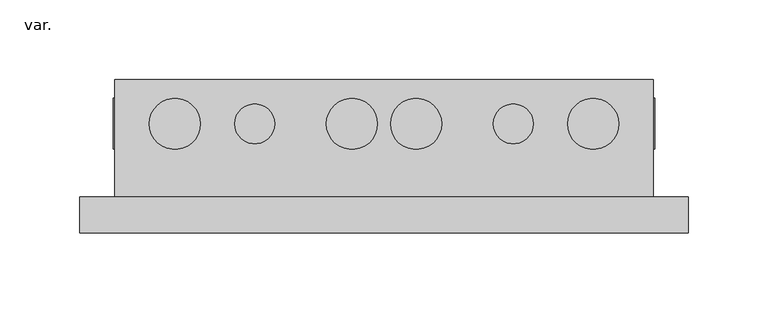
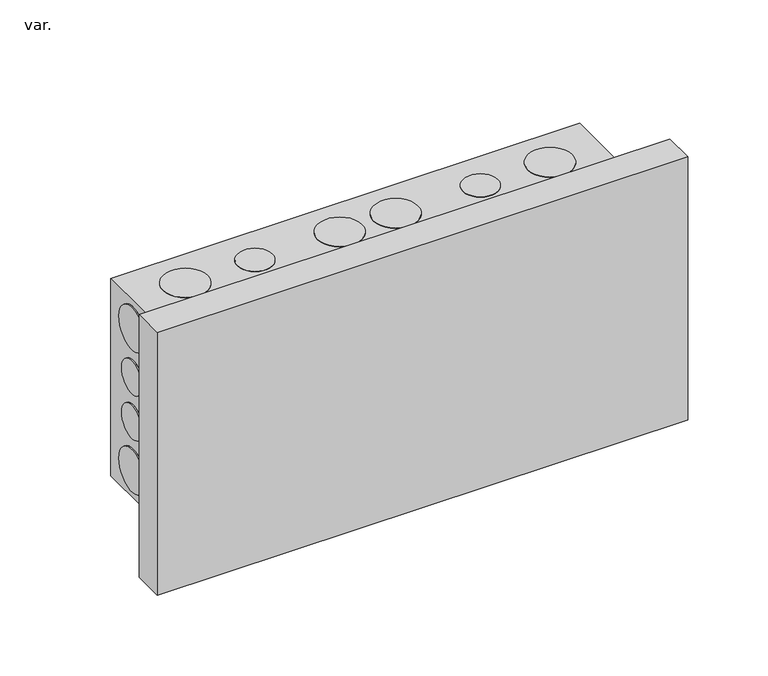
"""IFC4 building model written with IfcOpenShell, lengths in millimetres: pipe fitting geometry, AmancoWavin_ConexõesdoConduite_LinhaEletricaCorrugadoCuadroDistribucao12D : var.."""

from ifc_helpers import new_model, si_unit, frame, origin, place, context, project, spatial, polyline, circle_curve, source, transform, mapped, element, save
from ifc_brep_helpers import plane_surface, cylinder_surface, revolved_surface, advanced_brep


def var_2f03b29f(model_context):
    return source(origin(), model_context, "Body", "AdvancedBrep", [
        advanced_brep(
        [(190.5, 22.5, 100.0), (190.5, 22.5, -100.0), (-190.5, 22.5, -100.0), (-190.5, 22.5, 100.0), (168.5, 22.5, -75.0), (168.5, 22.5, 75.0), (-168.5, 22.5, 75.0), (-168.5, 22.5, -75.0), (190.5, 0.0, 100.0), (190.5, 0.0, -100.0), (-190.5, 0.0, -100.0), (-190.5, 0.0, 100.0), (168.5, 96.0, 75.0), (168.5, 96.0, -75.0), (-168.5, 96.0, -75.0), (-168.5, 96.0, 75.0), (-132.5, 96.0, 53.0), (-157.5, 96.0, 53.0), (-92.434244, 96.0, 53.0), (-124.434244, 96.0, 53.0), (132.5, 96.0, 53.0), (157.5, 96.0, 53.0), (92.434244, 96.0, 53.0), (124.434244, 96.0, 53.0), (-132.5, 96.0, -53.0), (-157.5, 96.0, -53.0), (-92.434244, 96.0, -53.0), (-124.434244, 96.0, -53.0), (132.5, 96.0, -53.0), (157.5, 96.0, -53.0), (92.434244, 96.0, -53.0), (124.434244, 96.0, -53.0), (168.5, 56.0, 17.0), (168.5, 81.0, 17.0), (168.5, 52.5, 54.0), (168.5, 84.5, 54.0), (168.5, 56.0, -17.0), (168.5, 81.0, -17.0), (168.5, 52.5, -54.0), (168.5, 84.5, -54.0), (-147.0, 68.3, -75.0), (-115.0, 68.3, -75.0), (-93.5, 68.3, -75.0), (-68.5, 68.3, -75.0), (-36.1, 68.3, -75.0), (-4.1, 68.3, -75.0), (147.0, 68.3, -75.0), (115.0, 68.3, -75.0), (93.5, 68.3, -75.0), (68.5, 68.3, -75.0), (36.1, 68.3, -75.0), (4.1, 68.3, -75.0), (-168.5, 81.0, 17.0), (-168.5, 56.0, 17.0), (-168.5, 84.5, 54.0), (-168.5, 52.5, 54.0), (-168.5, 81.0, -17.0), (-168.5, 56.0, -17.0), (-168.5, 84.5, -54.0), (-168.5, 52.5, -54.0), (-115.0, 68.3, 75.0), (-147.0, 68.3, 75.0), (-68.5, 68.3, 75.0), (-93.5, 68.3, 75.0), (-4.1, 68.3, 75.0), (-36.1, 68.3, 75.0), (115.0, 68.3, 75.0), (147.0, 68.3, 75.0), (68.5, 68.3, 75.0), (93.5, 68.3, 75.0), (4.1, 68.3, 75.0), (36.1, 68.3, 75.0), (-157.5, 95.0, 53.0), (-132.5, 95.0, 53.0), (-124.434244, 95.0, 53.0), (-92.434244, 95.0, 53.0), (157.5, 95.0, 53.0), (132.5, 95.0, 53.0), (124.434244, 95.0, 53.0), (92.434244, 95.0, 53.0), (-157.5, 95.0, -53.0), (-132.5, 95.0, -53.0), (-124.434244, 95.0, -53.0), (-92.434244, 95.0, -53.0), (157.5, 95.0, -53.0), (132.5, 95.0, -53.0), (124.434244, 95.0, -53.0), (92.434244, 95.0, -53.0), (-169.5, 56.0, 17.0), (-169.5, 81.0, 17.0), (-169.5, 52.5, 54.0), (-169.5, 84.5, 54.0), (-169.5, 56.0, -17.0), (-169.5, 81.0, -17.0), (-169.5, 52.5, -54.0), (-169.5, 84.5, -54.0), (169.5, 56.0, 17.0), (169.5, 81.0, 17.0), (169.5, 52.5, 54.0), (169.5, 84.5, 54.0), (169.5, 56.0, -17.0), (169.5, 81.0, -17.0), (169.5, 52.5, -54.0), (169.5, 84.5, -54.0), (-147.0, 68.3, 75.3532589), (-115.0, 68.3, 75.3532589), (-93.5, 68.3, 75.3532589), (-68.5, 68.3, 75.3532589), (-36.1, 68.3, 75.3532589), (-4.1, 68.3, 75.3532589), (147.0, 68.3, 75.3532589), (115.0, 68.3, 75.3532589), (93.5, 68.3, 75.3532589), (68.5, 68.3, 75.3532589), (36.1, 68.3, 75.3532589), (4.1, 68.3, 75.3532589), (-147.0, 68.3, -75.2845122), (-115.0, 68.3, -75.2845122), (-93.5, 68.3, -75.2845122), (-68.5, 68.3, -75.2845122), (-36.1, 68.3, -75.2845122), (-4.1, 68.3, -75.2845122), (147.0, 68.3, -75.2845122), (115.0, 68.3, -75.2845122), (93.5, 68.3, -75.2845122), (68.5, 68.3, -75.2845122), (36.1, 68.3, -75.2845122), (4.1, 68.3, -75.2845122)],
        [
            (0, 1),
            (1, 2),
            (2, 3),
            (3, 0),
            (4, 5),
            (5, 6),
            (6, 7),
            (7, 4),
            (0, 8),
            (8, 9),
            (9, 1),
            (9, 10),
            (10, 2),
            (10, 11),
            (11, 3),
            (11, 8),
            (12, 13),
            (13, 14),
            (14, 15),
            (15, 12),
            (16, 17, circle_curve(frame((-145.0, 96.0, 53.0), z_axis=(0.0, -1.0, 0.0), x_axis=(1.0, 0.0, 0.0)), 12.5)),
            (17, 16, circle_curve(frame((-145.0, 96.0, 53.0), z_axis=(0.0, -1.0, 0.0), x_axis=(1.0, 0.0, 0.0)), 12.5)),
            (18, 19, circle_curve(frame((-108.434244, 96.0, 53.0), z_axis=(0.0, -1.0, 0.0), x_axis=(1.0, 0.0, 0.0)), 16.0)),
            (19, 18, circle_curve(frame((-108.434244, 96.0, 53.0), z_axis=(0.0, -1.0, 0.0), x_axis=(1.0, 0.0, 0.0)), 16.0)),
            (20, 21, circle_curve(frame((145.0, 96.0, 53.0), z_axis=(0.0, -1.0, 0.0), x_axis=(-1.0, 0.0, 0.0)), 12.5)),
            (21, 20, circle_curve(frame((145.0, 96.0, 53.0), z_axis=(0.0, -1.0, 0.0), x_axis=(-1.0, 0.0, 0.0)), 12.5)),
            (22, 23, circle_curve(frame((108.434244, 96.0, 53.0), z_axis=(0.0, -1.0, 0.0), x_axis=(-1.0, 0.0, 0.0)), 16.0)),
            (23, 22, circle_curve(frame((108.434244, 96.0, 53.0), z_axis=(0.0, -1.0, 0.0), x_axis=(-1.0, 0.0, 0.0)), 16.0)),
            (24, 25, circle_curve(frame((-145.0, 96.0, -53.0), z_axis=(0.0, -1.0, 0.0), x_axis=(1.0, 0.0, 0.0)), 12.5)),
            (25, 24, circle_curve(frame((-145.0, 96.0, -53.0), z_axis=(0.0, -1.0, 0.0), x_axis=(1.0, 0.0, 0.0)), 12.5)),
            (26, 27, circle_curve(frame((-108.434244, 96.0, -53.0), z_axis=(0.0, -1.0, 0.0), x_axis=(1.0, 0.0, 0.0)), 16.0)),
            (27, 26, circle_curve(frame((-108.434244, 96.0, -53.0), z_axis=(0.0, -1.0, 0.0), x_axis=(1.0, 0.0, 0.0)), 16.0)),
            (28, 29, circle_curve(frame((145.0, 96.0, -53.0), z_axis=(0.0, -1.0, 0.0), x_axis=(-1.0, 0.0, 0.0)), 12.5)),
            (29, 28, circle_curve(frame((145.0, 96.0, -53.0), z_axis=(0.0, -1.0, 0.0), x_axis=(-1.0, 0.0, 0.0)), 12.5)),
            (30, 31, circle_curve(frame((108.434244, 96.0, -53.0), z_axis=(0.0, -1.0, 0.0), x_axis=(-1.0, 0.0, 0.0)), 16.0)),
            (31, 30, circle_curve(frame((108.434244, 96.0, -53.0), z_axis=(0.0, -1.0, 0.0), x_axis=(-1.0, 0.0, 0.0)), 16.0)),
            (12, 5),
            (4, 13),
            (32, 33, circle_curve(frame((168.5, 68.5, 17.0), z_axis=(-1.0, 0.0, 0.0), x_axis=(0.0, 1.0, 0.0)), 12.5)),
            (33, 32, circle_curve(frame((168.5, 68.5, 17.0), z_axis=(-1.0, 0.0, 0.0), x_axis=(0.0, 1.0, 0.0)), 12.5)),
            (34, 35, circle_curve(frame((168.5, 68.5, 54.0), z_axis=(-1.0, 0.0, 0.0), x_axis=(0.0, 1.0, 0.0)), 16.0)),
            (35, 34, circle_curve(frame((168.5, 68.5, 54.0), z_axis=(-1.0, 0.0, 0.0), x_axis=(0.0, 1.0, 0.0)), 16.0)),
            (36, 37, circle_curve(frame((168.5, 68.5, -17.0), z_axis=(-1.0, 0.0, 0.0), x_axis=(0.0, 1.0, 0.0)), 12.5)),
            (37, 36, circle_curve(frame((168.5, 68.5, -17.0), z_axis=(-1.0, 0.0, 0.0), x_axis=(0.0, 1.0, 0.0)), 12.5)),
            (38, 39, circle_curve(frame((168.5, 68.5, -54.0), z_axis=(-1.0, 0.0, 0.0), x_axis=(0.0, 1.0, 0.0)), 16.0)),
            (39, 38, circle_curve(frame((168.5, 68.5, -54.0), z_axis=(-1.0, 0.0, 0.0), x_axis=(0.0, 1.0, 0.0)), 16.0)),
            (7, 14),
            (40, 41, circle_curve(frame((-131.0, 68.3, -75.0), z_axis=(0.0, 0.0, 1.0), x_axis=(1.0, 0.0, 0.0)), 16.0)),
            (41, 40, circle_curve(frame((-131.0, 68.3, -75.0), z_axis=(0.0, 0.0, 1.0), x_axis=(1.0, 0.0, 0.0)), 16.0)),
            (42, 43, circle_curve(frame((-81.0, 68.3, -75.0), z_axis=(0.0, 0.0, 1.0), x_axis=(1.0, 0.0, 0.0)), 12.5)),
            (43, 42, circle_curve(frame((-81.0, 68.3, -75.0), z_axis=(0.0, 0.0, 1.0), x_axis=(1.0, 0.0, 0.0)), 12.5)),
            (44, 45, circle_curve(frame((-20.1, 68.3, -75.0), z_axis=(0.0, 0.0, 1.0), x_axis=(1.0, 0.0, 0.0)), 16.0)),
            (45, 44, circle_curve(frame((-20.1, 68.3, -75.0), z_axis=(0.0, 0.0, 1.0), x_axis=(1.0, 0.0, 0.0)), 16.0)),
            (46, 47, circle_curve(frame((131.0, 68.3, -75.0), z_axis=(0.0, 0.0, 1.0), x_axis=(-1.0, 0.0, 0.0)), 16.0)),
            (47, 46, circle_curve(frame((131.0, 68.3, -75.0), z_axis=(0.0, 0.0, 1.0), x_axis=(-1.0, 0.0, 0.0)), 16.0)),
            (48, 49, circle_curve(frame((81.0, 68.3, -75.0), z_axis=(0.0, 0.0, 1.0), x_axis=(-1.0, 0.0, 0.0)), 12.5)),
            (49, 48, circle_curve(frame((81.0, 68.3, -75.0), z_axis=(0.0, 0.0, 1.0), x_axis=(-1.0, 0.0, 0.0)), 12.5)),
            (50, 51, circle_curve(frame((20.1, 68.3, -75.0), z_axis=(0.0, 0.0, 1.0), x_axis=(-1.0, 0.0, 0.0)), 16.0)),
            (51, 50, circle_curve(frame((20.1, 68.3, -75.0), z_axis=(0.0, 0.0, 1.0), x_axis=(-1.0, 0.0, 0.0)), 16.0)),
            (6, 15),
            (52, 53, circle_curve(frame((-168.5, 68.5, 17.0), z_axis=(1.0, 0.0, 0.0), x_axis=(0.0, 1.0, 0.0)), 12.5)),
            (53, 52, circle_curve(frame((-168.5, 68.5, 17.0), z_axis=(1.0, 0.0, 0.0), x_axis=(0.0, 1.0, 0.0)), 12.5)),
            (54, 55, circle_curve(frame((-168.5, 68.5, 54.0), z_axis=(1.0, 0.0, 0.0), x_axis=(0.0, 1.0, 0.0)), 16.0)),
            (55, 54, circle_curve(frame((-168.5, 68.5, 54.0), z_axis=(1.0, 0.0, 0.0), x_axis=(0.0, 1.0, 0.0)), 16.0)),
            (56, 57, circle_curve(frame((-168.5, 68.5, -17.0), z_axis=(1.0, 0.0, 0.0), x_axis=(0.0, 1.0, 0.0)), 12.5)),
            (57, 56, circle_curve(frame((-168.5, 68.5, -17.0), z_axis=(1.0, 0.0, 0.0), x_axis=(0.0, 1.0, 0.0)), 12.5)),
            (58, 59, circle_curve(frame((-168.5, 68.5, -54.0), z_axis=(1.0, 0.0, 0.0), x_axis=(0.0, 1.0, 0.0)), 16.0)),
            (59, 58, circle_curve(frame((-168.5, 68.5, -54.0), z_axis=(1.0, 0.0, 0.0), x_axis=(0.0, 1.0, 0.0)), 16.0)),
            (60, 61, circle_curve(frame((-131.0, 68.3, 75.0), z_axis=(0.0, 0.0, -1.0), x_axis=(1.0, 0.0, 0.0)), 16.0)),
            (61, 60, circle_curve(frame((-131.0, 68.3, 75.0), z_axis=(0.0, 0.0, -1.0), x_axis=(1.0, 0.0, 0.0)), 16.0)),
            (62, 63, circle_curve(frame((-81.0, 68.3, 75.0), z_axis=(0.0, 0.0, -1.0), x_axis=(1.0, 0.0, 0.0)), 12.5)),
            (63, 62, circle_curve(frame((-81.0, 68.3, 75.0), z_axis=(0.0, 0.0, -1.0), x_axis=(1.0, 0.0, 0.0)), 12.5)),
            (64, 65, circle_curve(frame((-20.1, 68.3, 75.0), z_axis=(0.0, 0.0, -1.0), x_axis=(1.0, 0.0, 0.0)), 16.0)),
            (65, 64, circle_curve(frame((-20.1, 68.3, 75.0), z_axis=(0.0, 0.0, -1.0), x_axis=(1.0, 0.0, 0.0)), 16.0)),
            (66, 67, circle_curve(frame((131.0, 68.3, 75.0), z_axis=(0.0, 0.0, -1.0), x_axis=(-1.0, 0.0, 0.0)), 16.0)),
            (67, 66, circle_curve(frame((131.0, 68.3, 75.0), z_axis=(0.0, 0.0, -1.0), x_axis=(-1.0, 0.0, 0.0)), 16.0)),
            (68, 69, circle_curve(frame((81.0, 68.3, 75.0), z_axis=(0.0, 0.0, -1.0), x_axis=(-1.0, 0.0, 0.0)), 12.5)),
            (69, 68, circle_curve(frame((81.0, 68.3, 75.0), z_axis=(0.0, 0.0, -1.0), x_axis=(-1.0, 0.0, 0.0)), 12.5)),
            (70, 71, circle_curve(frame((20.1, 68.3, 75.0), z_axis=(0.0, 0.0, -1.0), x_axis=(-1.0, 0.0, 0.0)), 16.0)),
            (71, 70, circle_curve(frame((20.1, 68.3, 75.0), z_axis=(0.0, 0.0, -1.0), x_axis=(-1.0, 0.0, 0.0)), 16.0)),
            (72, 73, circle_curve(frame((-145.0, 95.0, 53.0), z_axis=(0.0, 1.0, 0.0), x_axis=(1.0, 0.0, 0.0)), 12.5)),
            (73, 72, circle_curve(frame((-145.0, 95.0, 53.0), z_axis=(0.0, 1.0, 0.0), x_axis=(1.0, 0.0, 0.0)), 12.5)),
            (74, 75, circle_curve(frame((-108.434244, 95.0, 53.0), z_axis=(0.0, 1.0, 0.0), x_axis=(1.0, 0.0, 0.0)), 16.0)),
            (75, 74, circle_curve(frame((-108.434244, 95.0, 53.0), z_axis=(0.0, 1.0, 0.0), x_axis=(1.0, 0.0, 0.0)), 16.0)),
            (76, 77, circle_curve(frame((145.0, 95.0, 53.0), z_axis=(0.0, 1.0, 0.0), x_axis=(-1.0, 0.0, 0.0)), 12.5)),
            (77, 76, circle_curve(frame((145.0, 95.0, 53.0), z_axis=(0.0, 1.0, 0.0), x_axis=(-1.0, 0.0, 0.0)), 12.5)),
            (78, 79, circle_curve(frame((108.434244, 95.0, 53.0), z_axis=(0.0, 1.0, 0.0), x_axis=(-1.0, 0.0, 0.0)), 16.0)),
            (79, 78, circle_curve(frame((108.434244, 95.0, 53.0), z_axis=(0.0, 1.0, 0.0), x_axis=(-1.0, 0.0, 0.0)), 16.0)),
            (80, 81, circle_curve(frame((-145.0, 95.0, -53.0), z_axis=(0.0, 1.0, 0.0), x_axis=(1.0, 0.0, 0.0)), 12.5)),
            (81, 80, circle_curve(frame((-145.0, 95.0, -53.0), z_axis=(0.0, 1.0, 0.0), x_axis=(1.0, 0.0, 0.0)), 12.5)),
            (82, 83, circle_curve(frame((-108.434244, 95.0, -53.0), z_axis=(0.0, 1.0, 0.0), x_axis=(1.0, 0.0, 0.0)), 16.0)),
            (83, 82, circle_curve(frame((-108.434244, 95.0, -53.0), z_axis=(0.0, 1.0, 0.0), x_axis=(1.0, 0.0, 0.0)), 16.0)),
            (84, 85, circle_curve(frame((145.0, 95.0, -53.0), z_axis=(0.0, 1.0, 0.0), x_axis=(-1.0, 0.0, 0.0)), 12.5)),
            (85, 84, circle_curve(frame((145.0, 95.0, -53.0), z_axis=(0.0, 1.0, 0.0), x_axis=(-1.0, 0.0, 0.0)), 12.5)),
            (86, 87, circle_curve(frame((108.434244, 95.0, -53.0), z_axis=(0.0, 1.0, 0.0), x_axis=(-1.0, 0.0, 0.0)), 16.0)),
            (87, 86, circle_curve(frame((108.434244, 95.0, -53.0), z_axis=(0.0, 1.0, 0.0), x_axis=(-1.0, 0.0, 0.0)), 16.0)),
            (72, 17),
            (16, 73),
            (74, 19),
            (18, 75),
            (88, 89, circle_curve(frame((-169.5, 68.5, 17.0), z_axis=(-1.0, 0.0, 0.0), x_axis=(0.0, 1.0, 0.0)), 12.5)),
            (89, 88, circle_curve(frame((-169.5, 68.5, 17.0), z_axis=(-1.0, 0.0, 0.0), x_axis=(0.0, 1.0, 0.0)), 12.5)),
            (90, 91, circle_curve(frame((-169.5, 68.5, 54.0), z_axis=(-1.0, 0.0, 0.0), x_axis=(0.0, 1.0, 0.0)), 16.0)),
            (91, 90, circle_curve(frame((-169.5, 68.5, 54.0), z_axis=(-1.0, 0.0, 0.0), x_axis=(0.0, 1.0, 0.0)), 16.0)),
            (92, 93, circle_curve(frame((-169.5, 68.5, -17.0), z_axis=(-1.0, 0.0, 0.0), x_axis=(0.0, 1.0, 0.0)), 12.5)),
            (93, 92, circle_curve(frame((-169.5, 68.5, -17.0), z_axis=(-1.0, 0.0, 0.0), x_axis=(0.0, 1.0, 0.0)), 12.5)),
            (94, 95, circle_curve(frame((-169.5, 68.5, -54.0), z_axis=(-1.0, 0.0, 0.0), x_axis=(0.0, 1.0, 0.0)), 16.0)),
            (95, 94, circle_curve(frame((-169.5, 68.5, -54.0), z_axis=(-1.0, 0.0, 0.0), x_axis=(0.0, 1.0, 0.0)), 16.0)),
            (96, 97, circle_curve(frame((169.5, 68.5, 17.0), z_axis=(1.0, 0.0, 0.0), x_axis=(0.0, 1.0, 0.0)), 12.5)),
            (97, 96, circle_curve(frame((169.5, 68.5, 17.0), z_axis=(1.0, 0.0, 0.0), x_axis=(0.0, 1.0, 0.0)), 12.5)),
            (98, 99, circle_curve(frame((169.5, 68.5, 54.0), z_axis=(1.0, 0.0, 0.0), x_axis=(0.0, 1.0, 0.0)), 16.0)),
            (99, 98, circle_curve(frame((169.5, 68.5, 54.0), z_axis=(1.0, 0.0, 0.0), x_axis=(0.0, 1.0, 0.0)), 16.0)),
            (100, 101, circle_curve(frame((169.5, 68.5, -17.0), z_axis=(1.0, 0.0, 0.0), x_axis=(0.0, 1.0, 0.0)), 12.5)),
            (101, 100, circle_curve(frame((169.5, 68.5, -17.0), z_axis=(1.0, 0.0, 0.0), x_axis=(0.0, 1.0, 0.0)), 12.5)),
            (102, 103, circle_curve(frame((169.5, 68.5, -54.0), z_axis=(1.0, 0.0, 0.0), x_axis=(0.0, 1.0, 0.0)), 16.0)),
            (103, 102, circle_curve(frame((169.5, 68.5, -54.0), z_axis=(1.0, 0.0, 0.0), x_axis=(0.0, 1.0, 0.0)), 16.0)),
            (88, 53),
            (52, 89),
            (97, 33),
            (32, 96),
            (90, 55),
            (54, 91),
            (99, 35),
            (34, 98),
            (104, 105, circle_curve(frame((-131.0, 68.3, 75.3532589), z_axis=(0.0, 0.0, 1.0), x_axis=(1.0, 0.0, 0.0)), 16.0)),
            (105, 104, circle_curve(frame((-131.0, 68.3, 75.3532589), z_axis=(0.0, 0.0, 1.0), x_axis=(1.0, 0.0, 0.0)), 16.0)),
            (106, 107, circle_curve(frame((-81.0, 68.3, 75.3532589), z_axis=(0.0, 0.0, 1.0), x_axis=(1.0, 0.0, 0.0)), 12.5)),
            (107, 106, circle_curve(frame((-81.0, 68.3, 75.3532589), z_axis=(0.0, 0.0, 1.0), x_axis=(1.0, 0.0, 0.0)), 12.5)),
            (108, 109, circle_curve(frame((-20.1, 68.3, 75.3532589), z_axis=(0.0, 0.0, 1.0), x_axis=(1.0, 0.0, 0.0)), 16.0)),
            (109, 108, circle_curve(frame((-20.1, 68.3, 75.3532589), z_axis=(0.0, 0.0, 1.0), x_axis=(1.0, 0.0, 0.0)), 16.0)),
            (110, 111, circle_curve(frame((131.0, 68.3, 75.3532589), z_axis=(0.0, 0.0, 1.0), x_axis=(-1.0, 0.0, 0.0)), 16.0)),
            (111, 110, circle_curve(frame((131.0, 68.3, 75.3532589), z_axis=(0.0, 0.0, 1.0), x_axis=(-1.0, 0.0, 0.0)), 16.0)),
            (112, 113, circle_curve(frame((81.0, 68.3, 75.3532589), z_axis=(0.0, 0.0, 1.0), x_axis=(-1.0, 0.0, 0.0)), 12.5)),
            (113, 112, circle_curve(frame((81.0, 68.3, 75.3532589), z_axis=(0.0, 0.0, 1.0), x_axis=(-1.0, 0.0, 0.0)), 12.5)),
            (114, 115, circle_curve(frame((20.1, 68.3, 75.3532589), z_axis=(0.0, 0.0, 1.0), x_axis=(-1.0, 0.0, 0.0)), 16.0)),
            (115, 114, circle_curve(frame((20.1, 68.3, 75.3532589), z_axis=(0.0, 0.0, 1.0), x_axis=(-1.0, 0.0, 0.0)), 16.0)),
            (116, 117, circle_curve(frame((-131.0, 68.3, -75.2845122), z_axis=(0.0, 0.0, -1.0), x_axis=(1.0, 0.0, 0.0)), 16.0)),
            (117, 116, circle_curve(frame((-131.0, 68.3, -75.2845122), z_axis=(0.0, 0.0, -1.0), x_axis=(1.0, 0.0, 0.0)), 16.0)),
            (118, 119, circle_curve(frame((-81.0, 68.3, -75.2845122), z_axis=(0.0, 0.0, -1.0), x_axis=(1.0, 0.0, 0.0)), 12.5)),
            (119, 118, circle_curve(frame((-81.0, 68.3, -75.2845122), z_axis=(0.0, 0.0, -1.0), x_axis=(1.0, 0.0, 0.0)), 12.5)),
            (120, 121, circle_curve(frame((-20.1, 68.3, -75.2845122), z_axis=(0.0, 0.0, -1.0), x_axis=(1.0, 0.0, 0.0)), 16.0)),
            (121, 120, circle_curve(frame((-20.1, 68.3, -75.2845122), z_axis=(0.0, 0.0, -1.0), x_axis=(1.0, 0.0, 0.0)), 16.0)),
            (122, 123, circle_curve(frame((131.0, 68.3, -75.2845122), z_axis=(0.0, 0.0, -1.0), x_axis=(-1.0, 0.0, 0.0)), 16.0)),
            (123, 122, circle_curve(frame((131.0, 68.3, -75.2845122), z_axis=(0.0, 0.0, -1.0), x_axis=(-1.0, 0.0, 0.0)), 16.0)),
            (124, 125, circle_curve(frame((81.0, 68.3, -75.2845122), z_axis=(0.0, 0.0, -1.0), x_axis=(-1.0, 0.0, 0.0)), 12.5)),
            (125, 124, circle_curve(frame((81.0, 68.3, -75.2845122), z_axis=(0.0, 0.0, -1.0), x_axis=(-1.0, 0.0, 0.0)), 12.5)),
            (126, 127, circle_curve(frame((20.1, 68.3, -75.2845122), z_axis=(0.0, 0.0, -1.0), x_axis=(-1.0, 0.0, 0.0)), 16.0)),
            (127, 126, circle_curve(frame((20.1, 68.3, -75.2845122), z_axis=(0.0, 0.0, -1.0), x_axis=(-1.0, 0.0, 0.0)), 16.0)),
            (104, 61),
            (60, 105),
            (117, 41),
            (40, 116),
            (106, 63),
            (62, 107),
            (119, 43),
            (42, 118),
            (108, 65),
            (64, 109),
            (121, 45),
            (44, 120),
            (76, 21),
            (20, 77),
            (78, 23),
            (22, 79),
            (80, 25),
            (24, 81),
            (82, 27),
            (26, 83),
            (84, 29),
            (28, 85),
            (86, 31),
            (30, 87),
            (110, 67),
            (66, 111),
            (123, 47),
            (46, 122),
            (112, 69),
            (68, 113),
            (125, 49),
            (48, 124),
            (114, 71),
            (70, 115),
            (127, 51),
            (50, 126),
            (92, 57),
            (56, 93),
            (101, 37),
            (36, 100),
            (94, 59),
            (58, 95),
            (103, 39),
            (38, 102),
        ],
        [
            plane_surface(frame((190.5, 22.5, 200.5423623), z_axis=(0.0, 1.0, 0.0), x_axis=(0.0, 0.0, -1.0))),
            plane_surface(frame((190.5, 22.5, 100.0), z_axis=(1.0, 0.0, 0.0), x_axis=(0.0, -1.0, 0.0))),
            plane_surface(frame((190.5, 22.5, -100.0), z_axis=(0.0, 0.0, -1.0), x_axis=(0.0, -1.0, 0.0))),
            plane_surface(frame((-190.5, 22.5, -100.0), z_axis=(-1.0, 0.0, 0.0), x_axis=(0.0, -1.0, 0.0))),
            plane_surface(frame((-190.5, 22.5, 100.0), z_axis=(0.0, 0.0, 1.0), x_axis=(0.0, -1.0, 0.0))),
            plane_surface(frame((168.5, 96.0, 132.4195146), z_axis=(0.0, 1.0, 0.0), x_axis=(0.0, 0.0, -1.0))),
            plane_surface(frame((168.5, 0.0, 132.4195146), z_axis=(0.0, -1.0, 0.0), x_axis=(0.0, 0.0, 1.0))),
            plane_surface(frame((168.5, 96.0, 75.0), z_axis=(1.0, 0.0, 0.0), x_axis=(0.0, -1.0, 0.0))),
            plane_surface(frame((168.5, 96.0, -75.0), z_axis=(0.0, 0.0, -1.0), x_axis=(0.0, -1.0, 0.0))),
            plane_surface(frame((-168.5, 96.0, -75.0), z_axis=(-1.0, 0.0, 0.0), x_axis=(0.0, -1.0, 0.0))),
            plane_surface(frame((-168.5, 96.0, 75.0), z_axis=(0.0, 0.0, 1.0), x_axis=(0.0, -1.0, 0.0))),
            plane_surface(frame((-132.5, 95.0, 53.0), z_axis=(0.0, 1.0, 0.0), x_axis=(0.0, 0.0, 1.0))),
            revolved_surface(polyline([(-132.5, 96.0, 53.0), (-132.5, 95.0, 53.0)]), (-145.0, 95.0, 53.0), (0.0, 1.0, 0.0)),
            revolved_surface(polyline([(-92.434244, 96.0, 53.0), (-92.434244, 95.0, 53.0)]), (-108.434244, 0.0, 53.0), (0.0, 1.0, 0.0)),
            plane_surface(frame((-169.5, 81.0, 17.0), z_axis=(-1.0, 0.0, 0.0), x_axis=(0.0, 0.0, -1.0))),
            plane_surface(frame((169.5, 81.0, 17.0), z_axis=(1.0, 0.0, 0.0), x_axis=(0.0, 0.0, 1.0))),
            cylinder_surface(frame((169.5, 68.5, 17.0), z_axis=(-1.0, 0.0, 0.0), x_axis=(0.0, 1.0, 0.0)), 12.5),
            cylinder_surface(frame((0.0, 68.5, 54.0), z_axis=(-1.0, 0.0, 0.0), x_axis=(0.0, 1.0, 0.0)), 16.0),
            plane_surface(frame((-115.0, 68.3, 75.3532589), z_axis=(0.0, 0.0, 1.0), x_axis=(0.0, 1.0, 0.0))),
            plane_surface(frame((-115.0, 68.3, -75.2845122), z_axis=(0.0, 0.0, -1.0), x_axis=(0.0, -1.0, 0.0))),
            cylinder_surface(frame((-131.0, 68.3, -75.2845122), z_axis=(0.0, 0.0, 1.0), x_axis=(1.0, 0.0, 0.0)), 16.0),
            cylinder_surface(frame((-81.0, 68.3, 0.0), z_axis=(0.0, 0.0, 1.0), x_axis=(1.0, 0.0, 0.0)), 12.5),
            cylinder_surface(frame((-20.1, 68.3, 0.0), z_axis=(0.0, 0.0, 1.0), x_axis=(1.0, 0.0, 0.0)), 16.0),
            revolved_surface(polyline([(132.5, 96.0, 53.0), (132.5, 95.0, 53.0)]), (145.0, 0.0, 53.0), (0.0, 1.0, 0.0)),
            revolved_surface(polyline([(92.434244, 96.0, 53.0), (92.434244, 95.0, 53.0)]), (108.434244, 0.0, 53.0), (0.0, 1.0, 0.0)),
            revolved_surface(polyline([(-132.5, 96.0, -53.0), (-132.5, 95.0, -53.0)]), (-145.0, 0.0, -53.0), (0.0, 1.0, 0.0)),
            revolved_surface(polyline([(-92.434244, 96.0, -53.0), (-92.434244, 95.0, -53.0)]), (-108.434244, 0.0, -53.0), (0.0, 1.0, 0.0)),
            revolved_surface(polyline([(132.5, 96.0, -53.0), (132.5, 95.0, -53.0)]), (145.0, 0.0, -53.0), (0.0, 1.0, 0.0)),
            revolved_surface(polyline([(92.434244, 96.0, -53.0), (92.434244, 95.0, -53.0)]), (108.434244, 0.0, -53.0), (0.0, 1.0, 0.0)),
            cylinder_surface(frame((131.0, 68.3, 0.0), z_axis=(0.0, 0.0, 1.0), x_axis=(-1.0, 0.0, 0.0)), 16.0),
            cylinder_surface(frame((81.0, 68.3, 0.0), z_axis=(0.0, 0.0, 1.0), x_axis=(-1.0, 0.0, 0.0)), 12.5),
            cylinder_surface(frame((20.1, 68.3, 0.0), z_axis=(0.0, 0.0, 1.0), x_axis=(-1.0, 0.0, 0.0)), 16.0),
            cylinder_surface(frame((0.0, 68.5, -17.0), z_axis=(-1.0, 0.0, 0.0), x_axis=(0.0, 1.0, 0.0)), 12.5),
            cylinder_surface(frame((0.0, 68.5, -54.0), z_axis=(-1.0, 0.0, 0.0), x_axis=(0.0, 1.0, 0.0)), 16.0),
        ],
        [
            (0, [[1, 2, 3, 4], [5, 6, 7, 8]]),
            (1, [[-1, 9, 10, 11]]),
            (2, [[-2, -11, 12, 13]]),
            (3, [[-3, -13, 14, 15]]),
            (4, [[-4, -15, 16, -9]]),
            (5, [[17, 18, 19, 20], [21, 22], [23, 24], [25, 26], [27, 28], [29, 30], [31, 32], [33, 34], [35, 36]]),
            (6, [[-16, -14, -12, -10]]),
            (7, [[-17, 37, -5, 38], [39, 40], [41, 42], [43, 44], [45, 46]]),
            (8, [[-18, -38, -8, 47], [48, 49], [50, 51], [52, 53], [54, 55], [56, 57], [58, 59]]),
            (9, [[-19, -47, -7, 60], [61, 62], [63, 64], [65, 66], [67, 68]]),
            (10, [[-20, -60, -6, -37], [69, 70], [71, 72], [73, 74], [75, 76], [77, 78], [79, 80]]),
            (11, [[81, 82]]),
            (11, [[83, 84]]),
            (11, [[85, 86]]),
            (11, [[87, 88]]),
            (11, [[89, 90]]),
            (11, [[91, 92]]),
            (11, [[93, 94]]),
            (11, [[95, 96]]),
            (12, [[-81, 97, -21, 98]]),
            (12, [[-82, -98, -22, -97]]),
            (13, [[-83, 99, -23, 100]]),
            (13, [[-84, -100, -24, -99]]),
            (14, [[101, 102]]),
            (14, [[103, 104]]),
            (14, [[105, 106]]),
            (14, [[107, 108]]),
            (15, [[109, 110]]),
            (15, [[111, 112]]),
            (15, [[113, 114]]),
            (15, [[115, 116]]),
            (16, [[-101, 117, -61, 118]]),
            (16, [[-110, 119, -39, 120]]),
            (16, [[-102, -118, -62, -117]]),
            (16, [[-109, -120, -40, -119]]),
            (17, [[-103, 121, -63, 122]]),
            (17, [[-112, 123, -41, 124]]),
            (17, [[-104, -122, -64, -121]]),
            (17, [[-111, -124, -42, -123]]),
            (18, [[125, 126]]),
            (18, [[127, 128]]),
            (18, [[129, 130]]),
            (18, [[131, 132]]),
            (18, [[133, 134]]),
            (18, [[135, 136]]),
            (19, [[137, 138]]),
            (19, [[139, 140]]),
            (19, [[141, 142]]),
            (19, [[143, 144]]),
            (19, [[145, 146]]),
            (19, [[147, 148]]),
            (20, [[-125, 149, -69, 150]]),
            (20, [[-138, 151, -48, 152]]),
            (20, [[-126, -150, -70, -149]]),
            (20, [[-137, -152, -49, -151]]),
            (21, [[-127, 153, -71, 154]]),
            (21, [[-140, 155, -50, 156]]),
            (21, [[-128, -154, -72, -153]]),
            (21, [[-139, -156, -51, -155]]),
            (22, [[-129, 157, -73, 158]]),
            (22, [[-142, 159, -52, 160]]),
            (22, [[-130, -158, -74, -157]]),
            (22, [[-141, -160, -53, -159]]),
            (23, [[-85, 161, -25, 162]]),
            (23, [[-86, -162, -26, -161]]),
            (24, [[-87, 163, -27, 164]]),
            (24, [[-88, -164, -28, -163]]),
            (25, [[-89, 165, -29, 166]]),
            (25, [[-90, -166, -30, -165]]),
            (26, [[-91, 167, -31, 168]]),
            (26, [[-92, -168, -32, -167]]),
            (27, [[-93, 169, -33, 170]]),
            (27, [[-94, -170, -34, -169]]),
            (28, [[-95, 171, -35, 172]]),
            (28, [[-96, -172, -36, -171]]),
            (29, [[-131, 173, -75, 174]]),
            (29, [[-144, 175, -54, 176]]),
            (29, [[-132, -174, -76, -173]]),
            (29, [[-143, -176, -55, -175]]),
            (30, [[-133, 177, -77, 178]]),
            (30, [[-146, 179, -56, 180]]),
            (30, [[-134, -178, -78, -177]]),
            (30, [[-145, -180, -57, -179]]),
            (31, [[-135, 181, -79, 182]]),
            (31, [[-148, 183, -58, 184]]),
            (31, [[-136, -182, -80, -181]]),
            (31, [[-147, -184, -59, -183]]),
            (32, [[-105, 185, -65, 186]]),
            (32, [[-114, 187, -43, 188]]),
            (32, [[-106, -186, -66, -185]]),
            (32, [[-113, -188, -44, -187]]),
            (33, [[-107, 189, -67, 190]]),
            (33, [[-116, 191, -45, 192]]),
            (33, [[-108, -190, -68, -189]]),
            (33, [[-115, -192, -46, -191]]),
        ],
    ),
    ])


if __name__ == "__main__":
    model = new_model("IFC4")
    model_context = context("Model", 3, world=origin())
    ifc_project = project(units=[si_unit("LENGTHUNIT", "METRE", prefix="MILLI")], contexts=[model_context])
    site = spatial("IfcSite", under=ifc_project)
    building = spatial("IfcBuilding", under=site)
    placement = place(None, origin())
    var_shape = var_2f03b29f(model_context)
    element("IfcPipeFitting", 1, ObjectType="AmancoWavin_ConexõesdoConduite_LinhaEletricaCorrugadoCuadroDistribucao12D : var.", at=placement, inside=building, context=model_context, shape_type="MappedRepresentation", body=[
        mapped(var_shape, transform((0.0, 0.0, 0.0), x_axis=(1.0, 0.0, 0.0), y_axis=(0.0, 1.0, 0.0), z_axis=(0.0, 0.0, 1.0))),
    ])
    save(model, "model.ifc")
